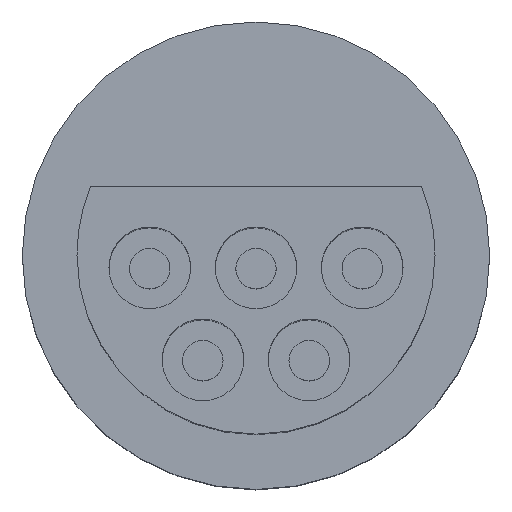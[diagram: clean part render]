
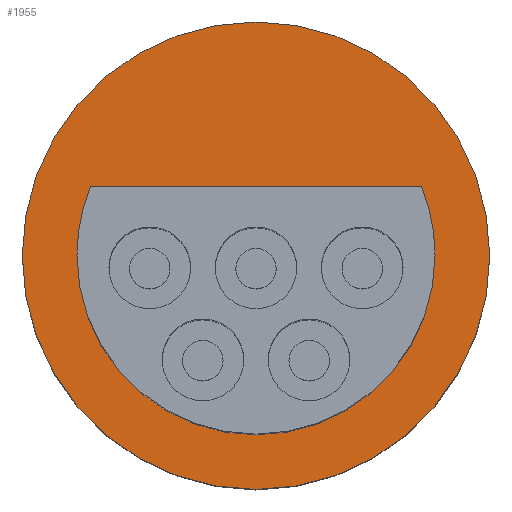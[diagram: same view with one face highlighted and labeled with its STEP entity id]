
A CAD part, top view. The second image highlights one B-rep face of the part: STEP entity #1955.
In plain terms, the highlighted planar face has unit normal (0, 0, 1).
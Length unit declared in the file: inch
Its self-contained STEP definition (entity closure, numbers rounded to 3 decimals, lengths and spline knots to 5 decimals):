
#90 = VERTEX_POINT ( 'NONE', #609 ) ;
#133 = VERTEX_POINT ( 'NONE', #691 ) ;
#138 = VERTEX_POINT ( 'NONE', #723 ) ;
#609 = CARTESIAN_POINT ( 'NONE',  ( 0.11, 0., 0. ) ) ;
#691 = CARTESIAN_POINT ( 'NONE',  ( -0.07783, 0.03225, 0. ) ) ;
#723 = CARTESIAN_POINT ( 'NONE',  ( -0.11, 0., 0. ) ) ;
#1134 = CARTESIAN_POINT ( 'NONE',  ( 0.08425, 0., 0. ) ) ;
#1135 = DIRECTION ( 'NONE',  ( -1., 0., 0. ) ) ;
#1136 = VECTOR ( 'NONE', #1135, 39.37008 ) ;
#1137 = CARTESIAN_POINT ( 'NONE',  ( -0.07783, 0.03225, 0. ) ) ;
#1143 = DIRECTION ( 'NONE',  ( 1., 0., 0. ) ) ;
#1144 = DIRECTION ( 'NONE',  ( 0., 0., 1. ) ) ;
#1145 = AXIS2_PLACEMENT_3D ( 'NONE', #1160, #1144, #1143 ) ;
#1146 = CIRCLE ( 'NONE', #1145, 0.08425 ) ;
#1148 = LINE ( 'NONE', #1137, #1136 ) ;
#1160 = CARTESIAN_POINT ( 'NONE',  ( 0., 0., 0. ) ) ;
#1162 = DIRECTION ( 'NONE',  ( 1., 0., 0. ) ) ;
#1168 = CARTESIAN_POINT ( 'NONE',  ( 0., 0., 0. ) ) ;
#1169 = CIRCLE ( 'NONE', #1221, 0.08425 ) ;
#1178 = DIRECTION ( 'NONE',  ( 1., 0., 0. ) ) ;
#1179 = DIRECTION ( 'NONE',  ( 0., 0., 1. ) ) ;
#1181 = CARTESIAN_POINT ( 'NONE',  ( 0.07783, 0.03225, 0. ) ) ;
#1182 = AXIS2_PLACEMENT_3D ( 'NONE', #1188, #1179, #1178 ) ;
#1188 = CARTESIAN_POINT ( 'NONE',  ( 0., 0., 0. ) ) ;
#1190 = CIRCLE ( 'NONE', #1182, 0.08425 ) ;
#1194 = CIRCLE ( 'NONE', #1242, 0.11 ) ;
#1202 = CIRCLE ( 'NONE', #1240, 0.11 ) ;
#1204 = PLANE ( 'NONE',  #1207 ) ;
#1206 = FACE_BOUND ( 'NONE', #1927, .T. ) ;
#1207 = AXIS2_PLACEMENT_3D ( 'NONE', #1218, #1217, #1162 ) ;
#1210 = FACE_OUTER_BOUND ( 'NONE', #1975, .T. ) ;
#1217 = DIRECTION ( 'NONE',  ( 0., 0., 1. ) ) ;
#1218 = CARTESIAN_POINT ( 'NONE',  ( 0., 0., 0. ) ) ;
#1219 = DIRECTION ( 'NONE',  ( 1., 0., 0. ) ) ;
#1220 = DIRECTION ( 'NONE',  ( 0., 0., 1. ) ) ;
#1221 = AXIS2_PLACEMENT_3D ( 'NONE', #1168, #1220, #1219 ) ;
#1227 = DIRECTION ( 'NONE',  ( 1., 0., 0. ) ) ;
#1228 = DIRECTION ( 'NONE',  ( 0., 0., 1. ) ) ;
#1238 = DIRECTION ( 'NONE',  ( 1., 0., 0. ) ) ;
#1239 = DIRECTION ( 'NONE',  ( 0., 0., 1. ) ) ;
#1240 = AXIS2_PLACEMENT_3D ( 'NONE', #1250, #1239, #1238 ) ;
#1242 = AXIS2_PLACEMENT_3D ( 'NONE', #1245, #1228, #1227 ) ;
#1245 = CARTESIAN_POINT ( 'NONE',  ( 0., 0., 0. ) ) ;
#1246 = CARTESIAN_POINT ( 'NONE',  ( -0.08425, 0., 0. ) ) ;
#1250 = CARTESIAN_POINT ( 'NONE',  ( 0., 0., 0. ) ) ;
#1921 = EDGE_CURVE ( 'NONE', #133, #1968, #1146, .T. ) ;
#1923 = EDGE_CURVE ( 'NONE', #1940, #133, #1148, .T. ) ;
#1927 = EDGE_LOOP ( 'NONE', ( #1962, #1977, #1979, #1974 ) ) ;
#1934 = EDGE_CURVE ( 'NONE', #1968, #1937, #1190, .T. ) ;
#1937 = VERTEX_POINT ( 'NONE', #1134 ) ;
#1940 = VERTEX_POINT ( 'NONE', #1181 ) ;
#1947 = EDGE_CURVE ( 'NONE', #1937, #1940, #1169, .T. ) ;
#1955 = ADVANCED_FACE ( 'NONE', ( #1206, #1210 ), #1204, .T. ) ;
#1962 = ORIENTED_EDGE ( 'NONE', *, *, #1923, .F. ) ;
#1964 = EDGE_CURVE ( 'NONE', #90, #138, #1202, .T. ) ;
#1968 = VERTEX_POINT ( 'NONE', #1246 ) ;
#1969 = EDGE_CURVE ( 'NONE', #138, #90, #1194, .T. ) ;
#1973 = ORIENTED_EDGE ( 'NONE', *, *, #1964, .T. ) ;
#1974 = ORIENTED_EDGE ( 'NONE', *, *, #1921, .F. ) ;
#1975 = EDGE_LOOP ( 'NONE', ( #1978, #1973 ) ) ;
#1977 = ORIENTED_EDGE ( 'NONE', *, *, #1947, .F. ) ;
#1978 = ORIENTED_EDGE ( 'NONE', *, *, #1969, .T. ) ;
#1979 = ORIENTED_EDGE ( 'NONE', *, *, #1934, .F. ) ;
